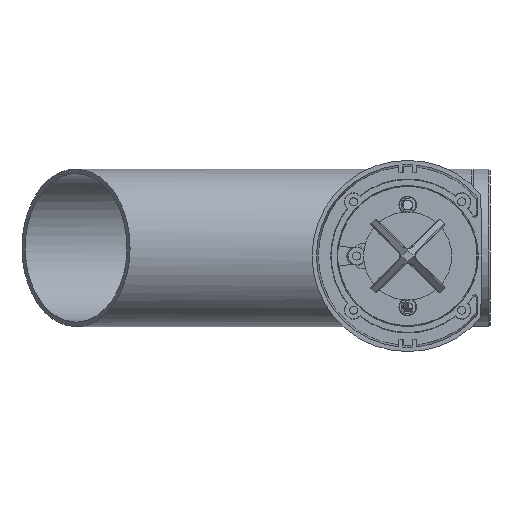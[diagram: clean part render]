
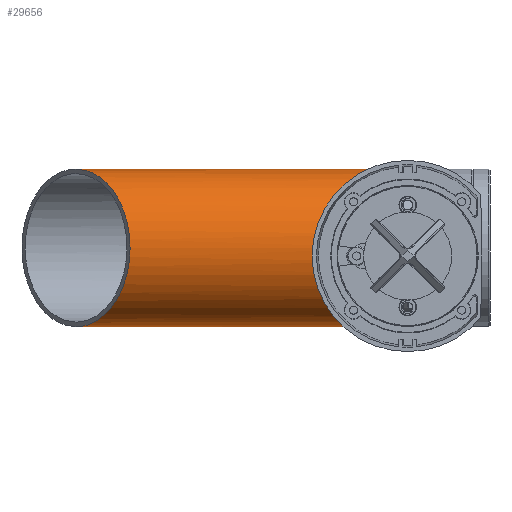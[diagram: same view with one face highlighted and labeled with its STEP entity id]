
A CAD part, front view. The second image highlights one B-rep face of the part: STEP entity #29656.
In plain terms, the highlighted cylindrical face has radius 34 mm (diameter 68 mm), a partial arc.
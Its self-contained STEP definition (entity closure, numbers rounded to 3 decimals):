
#29472=CARTESIAN_POINT('',(0.,0.,0.));
#29473=DIRECTION('',(0.,1.,0.));
#29474=DIRECTION('',(-1.,0.,0.));
#29475=AXIS2_PLACEMENT_3D('',#29472,#29473,#29474);
#29487=DIRECTION('',(0.,-1.,0.));
#29488=VECTOR('',#29487,140.7);
#29489=CARTESIAN_POINT('',(-34.,140.7,0.));
#29490=LINE('',#29489,#29488);
#29491=CARTESIAN_POINT('',(-34.,140.7,0.));
#29509=CARTESIAN_POINT('',(34.,140.7,0.));
#29511=CARTESIAN_POINT('',(34.,140.7,0.));
#29512=CARTESIAN_POINT('',(34.,137.954,4.007));
#29513=CARTESIAN_POINT('',(32.9,133.507,10.496));
#29514=CARTESIAN_POINT('',(28.672,127.874,18.716));
#29515=CARTESIAN_POINT('',(24.215,124.105,24.215));
#29516=CARTESIAN_POINT('',(18.716,121.051,28.673));
#29517=CARTESIAN_POINT('',(12.553,118.88,31.84));
#29518=CARTESIAN_POINT('',(7.229,117.85,33.343));
#29519=CARTESIAN_POINT('',(3.037,117.461,33.911));
#29520=CARTESIAN_POINT('',(0.,117.37,34.044));
#29521=CARTESIAN_POINT('',(-3.037,117.461,
33.911));
#29522=CARTESIAN_POINT('',(-7.229,117.85,
33.343));
#29523=CARTESIAN_POINT('',(-12.553,118.88,
31.84));
#29524=CARTESIAN_POINT('',(-18.716,121.051,
28.673));
#29525=CARTESIAN_POINT('',(-24.215,124.105,
24.215));
#29526=CARTESIAN_POINT('',(-28.672,127.874,
18.716));
#29527=CARTESIAN_POINT('',(-32.9,133.507,
10.496));
#29528=CARTESIAN_POINT('',(-34.,137.954,4.007));
#29529=CARTESIAN_POINT('',(-34.,140.7,0.));
#29531=DIRECTION('',(0.,-1.,0.));
#29532=VECTOR('',#29531,140.7);
#29533=CARTESIAN_POINT('',(34.,140.7,0.));
#29534=LINE('',#29533,#29532);
#29583=CARTESIAN_POINT('',(34.,0.,0.));
#29584=CARTESIAN_POINT('',(-34.,0.,0.));
#29585=VERTEX_POINT('',#29583);
#29586=VERTEX_POINT('',#29584);
#29591=VERTEX_POINT('',#29491);
#29592=VERTEX_POINT('',#29509);
#29645=CARTESIAN_POINT('',(0.,0.,0.));
#29646=DIRECTION('',(0.,1.,0.));
#29647=DIRECTION('',(1.,0.,0.));
#29648=AXIS2_PLACEMENT_3D('',#29645,#29646,#29647);
#29649=CYLINDRICAL_SURFACE('',#29648,34.);
#29650=ORIENTED_EDGE('',*,*,#29634,.F.);
#29651=ORIENTED_EDGE('',*,*,#29623,.T.);
#29652=ORIENTED_EDGE('',*,*,#29602,.F.);
#29653=ORIENTED_EDGE('',*,*,#29620,.F.);
#29654=EDGE_LOOP('',(#29650,#29651,#29652,#29653));
#29655=FACE_OUTER_BOUND('',#29654,.F.);
#29656=ADVANCED_FACE('',(#29655),#29649,.T.);
#29476=CIRCLE('',#29475,34.);
#29530=B_SPLINE_CURVE_WITH_KNOTS('',3,(#29511,#29512,#29513,#29514,#29515,
#29516,#29517,#29518,#29519,#29520,#29521,#29522,#29523,#29524,#29525,#29526,
#29527,#29528,#29529),.UNSPECIFIED.,.F.,.F.,(4,1,1,1,1,1,1,1,1,1,1,1,1,1,1,1,4),
(0.,0.125,0.188,0.25,0.313,0.375,0.438,0.469,0.5,
0.531,0.563,0.625,0.688,0.75,0.813,0.875,1.),
.UNSPECIFIED.);
#29602=EDGE_CURVE('',#29586,#29585,#29476,.T.);
#29620=EDGE_CURVE('',#29591,#29586,#29490,.T.);
#29623=EDGE_CURVE('',#29592,#29585,#29534,.T.);
#29634=EDGE_CURVE('',#29592,#29591,#29530,.T.);
